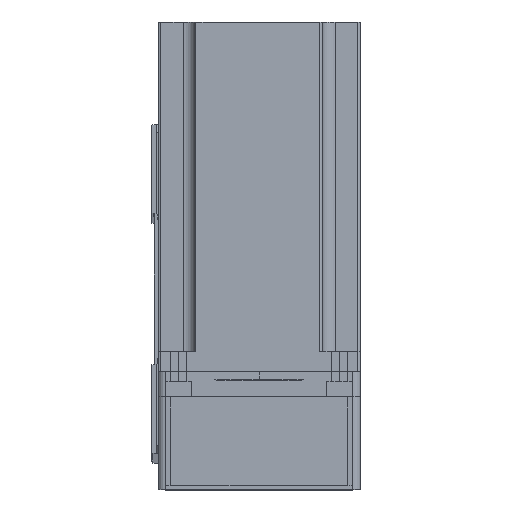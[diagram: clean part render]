
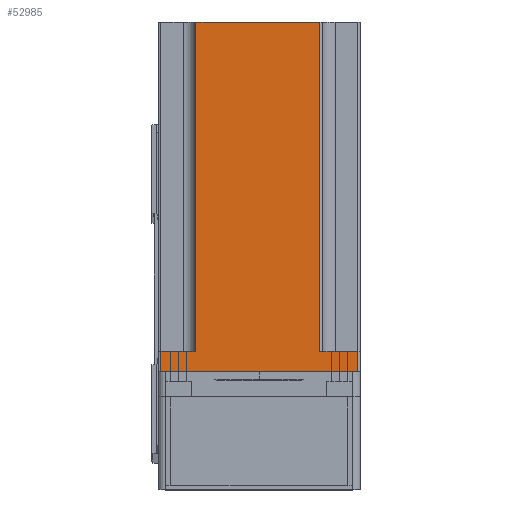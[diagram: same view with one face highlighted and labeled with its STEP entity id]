
A CAD part, top view. The second image highlights one B-rep face of the part: STEP entity #52985.
In plain terms, the highlighted planar face has unit normal (0, 0, 1) as drawn and (-1, 0, 0) by its records, which use the part's own axes.
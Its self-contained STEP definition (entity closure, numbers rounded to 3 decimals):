
#289 = VERTEX_POINT ( 'NONE', #49450 ) ;
#3549 = LINE ( 'NONE', #13685, #28143 ) ;
#4161 = ORIENTED_EDGE ( 'NONE', *, *, #25236, .T. ) ;
#4191 = EDGE_CURVE ( 'NONE', #34648, #28246, #52165, .T. ) ;
#4529 = VECTOR ( 'NONE', #62163, 1000. ) ;
#4630 = CARTESIAN_POINT ( 'NONE',  ( -40., -39., 8. ) ) ;
#5441 = DIRECTION ( 'NONE',  ( 0., 1., 0. ) ) ;
#6607 = CARTESIAN_POINT ( 'NONE',  ( -40., -40., 138.3 ) ) ;
#6756 = VERTEX_POINT ( 'NONE', #27423 ) ;
#6808 = EDGE_CURVE ( 'NONE', #18122, #6756, #38714, .T. ) ;
#6973 = DIRECTION ( 'NONE',  ( 0., 0., 1. ) ) ;
#7084 = VERTEX_POINT ( 'NONE', #35085 ) ;
#7245 = VECTOR ( 'NONE', #16039, 1000. ) ;
#8455 = VECTOR ( 'NONE', #23962, 1000. ) ;
#8655 = DIRECTION ( 'NONE',  ( 0., -1., 0. ) ) ;
#8932 = EDGE_CURVE ( 'NONE', #34648, #45276, #42179, .T. ) ;
#10316 = LINE ( 'NONE', #21405, #7245 ) ;
#10803 = CARTESIAN_POINT ( 'NONE',  ( -40., -40., 138.3 ) ) ;
#12506 = VECTOR ( 'NONE', #8655, 1000. ) ;
#13474 = DIRECTION ( 'NONE',  ( 0., 0., 1. ) ) ;
#13685 = CARTESIAN_POINT ( 'NONE',  ( -40., -39., 138.3 ) ) ;
#15760 = DIRECTION ( 'NONE',  ( 0., 0., -1. ) ) ;
#16039 = DIRECTION ( 'NONE',  ( 0., 0., 1. ) ) ;
#18122 = VERTEX_POINT ( 'NONE', #33370 ) ;
#18973 = EDGE_CURVE ( 'NONE', #289, #28246, #29432, .T. ) ;
#19866 = ORIENTED_EDGE ( 'NONE', *, *, #6808, .T. ) ;
#20429 = CARTESIAN_POINT ( 'NONE',  ( -40., 40., 8. ) ) ;
#20581 = ORIENTED_EDGE ( 'NONE', *, *, #62525, .T. ) ;
#21227 = VECTOR ( 'NONE', #5441, 1000. ) ;
#21405 = CARTESIAN_POINT ( 'NONE',  ( -40., 25., 8. ) ) ;
#23962 = DIRECTION ( 'NONE',  ( 0., 0., -1. ) ) ;
#25236 = EDGE_CURVE ( 'NONE', #7084, #18122, #34627, .T. ) ;
#26175 = DIRECTION ( 'NONE',  ( 0., -1., 0. ) ) ;
#27423 = CARTESIAN_POINT ( 'NONE',  ( -40., -39., 0. ) ) ;
#27879 = EDGE_CURVE ( 'NONE', #6756, #45276, #3549, .T. ) ;
#28143 = VECTOR ( 'NONE', #13474, 1000. ) ;
#28246 = VERTEX_POINT ( 'NONE', #62720 ) ;
#28681 = ORIENTED_EDGE ( 'NONE', *, *, #63171, .F. ) ;
#29432 = LINE ( 'NONE', #6607, #54035 ) ;
#33204 = CARTESIAN_POINT ( 'NONE',  ( -40., 25., 8. ) ) ;
#33370 = CARTESIAN_POINT ( 'NONE',  ( -40., 39., 0. ) ) ;
#34627 = LINE ( 'NONE', #48429, #8455 ) ;
#34648 = VERTEX_POINT ( 'NONE', #51462 ) ;
#35085 = CARTESIAN_POINT ( 'NONE',  ( -40., 39., 8. ) ) ;
#36402 = CARTESIAN_POINT ( 'NONE',  ( -40., -24., 138.3 ) ) ;
#38038 = VERTEX_POINT ( 'NONE', #33204 ) ;
#38714 = LINE ( 'NONE', #42230, #12506 ) ;
#42179 = LINE ( 'NONE', #57191, #4529 ) ;
#42230 = CARTESIAN_POINT ( 'NONE',  ( -40., -40., 0. ) ) ;
#44118 = ORIENTED_EDGE ( 'NONE', *, *, #27879, .T. ) ;
#45005 = PLANE ( 'NONE',  #53285 ) ;
#45204 = DIRECTION ( 'NONE',  ( 1., 0., 0. ) ) ;
#45276 = VERTEX_POINT ( 'NONE', #4630 ) ;
#45657 = ORIENTED_EDGE ( 'NONE', *, *, #4191, .T. ) ;
#48429 = CARTESIAN_POINT ( 'NONE',  ( -40., 39., 138.3 ) ) ;
#49244 = EDGE_LOOP ( 'NONE', ( #51545, #45657, #55732, #28681, #20581, #4161, #19866, #44118 ) ) ;
#49450 = CARTESIAN_POINT ( 'NONE',  ( -40., 25., 138.3 ) ) ;
#51462 = CARTESIAN_POINT ( 'NONE',  ( -40., -24., 8. ) ) ;
#51545 = ORIENTED_EDGE ( 'NONE', *, *, #8932, .F. ) ;
#52165 = LINE ( 'NONE', #36402, #63730 ) ;
#52985 = ADVANCED_FACE ( 'NONE', ( #54574 ), #45005, .F. ) ;
#53285 = AXIS2_PLACEMENT_3D ( 'NONE', #10803, #45204, #15760 ) ;
#54035 = VECTOR ( 'NONE', #26175, 1000. ) ;
#54574 = FACE_OUTER_BOUND ( 'NONE', #49244, .T. ) ;
#55732 = ORIENTED_EDGE ( 'NONE', *, *, #18973, .F. ) ;
#57191 = CARTESIAN_POINT ( 'NONE',  ( -40., -40., 8. ) ) ;
#60465 = LINE ( 'NONE', #20429, #21227 ) ;
#62163 = DIRECTION ( 'NONE',  ( 0., -1., 0. ) ) ;
#62525 = EDGE_CURVE ( 'NONE', #38038, #7084, #60465, .T. ) ;
#62720 = CARTESIAN_POINT ( 'NONE',  ( -40., -24., 138.3 ) ) ;
#63171 = EDGE_CURVE ( 'NONE', #38038, #289, #10316, .T. ) ;
#63730 = VECTOR ( 'NONE', #6973, 1000. ) ;
